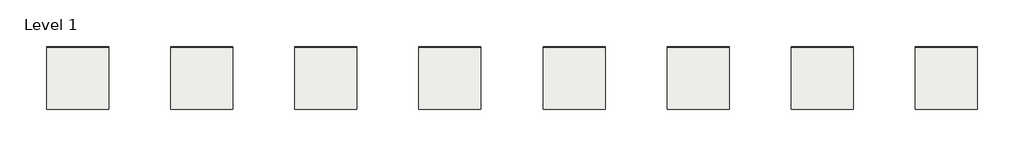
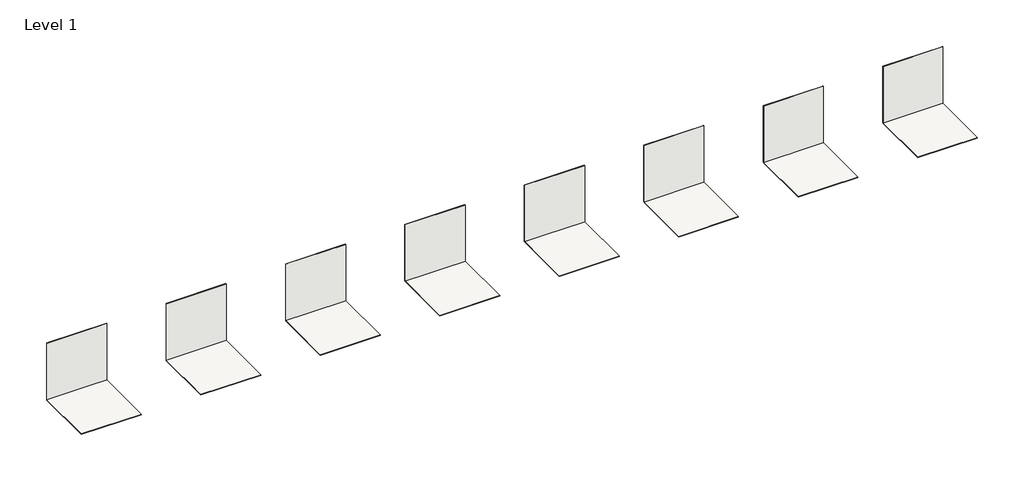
# One storey: 16 coverings.
"""IFC4 building model written with IfcOpenShell, lengths in millimetres."""

from ifc_helpers import new_model, si_unit, frame, origin, origin_with_axes, place, context, project, spatial, polyline, outline, extrude, element, save

model = new_model("IFC4")

# Units and contexts
model_context = context("Model", 3, world=origin())
ifc_project = project(units=[si_unit("LENGTHUNIT", "METRE", prefix="MILLI")], contexts=[model_context])

# Site, building, storey
site = spatial("IfcSite", under=ifc_project)
building = spatial("IfcBuilding", under=site)
storey = spatial("IfcBuildingStorey", under=building, Name="Level 1", Elevation=0.0)

# Coverings
placement = place(None, origin())
element("IfcCovering", 1, ObjectType="REVIGRÉS-LOCUS-HEXAGONO-16,5X19-SILK-ALLOY", at=placement, inside=storey, context=model_context, shape_type="SweptSolid", body=[
    extrude(outline(polyline([(2948.642714, 3103.8257974), (1948.642714, 3103.8257974), (1948.642714, 3112.3257974), (2948.642714, 3112.3257974), (2948.642714, 3103.8257974)])), origin_with_axes(), (0.0, 0.0, 1.0), 1000.0),
])
element("IfcCovering", 2, ObjectType="REVIGRÉS-LOCUS-HEXAGONO-16,5X19-SILK-ALLOY", at=placement, inside=storey, context=model_context, shape_type="SweptSolid", body=[
    extrude(outline(polyline([(2948.642714, 3103.8257974), (2948.642714, 2103.1757974), (1948.642714, 2103.1757974), (1948.642714, 3103.8257974), (2948.642714, 3103.8257974)])), frame((0.0, 0.0, -8.5), z_axis=(0.0, 0.0, 1.0), x_axis=(1.0, 0.0, 0.0)), (0.0, 0.0, 1.0), 8.5),
])
element("IfcCovering", 3, ObjectType="REVIGRÉS-LOCUS-HEXAGONO-16,5X19-SILK-BONE", at=placement, inside=storey, context=model_context, shape_type="SweptSolid", body=[
    extrude(outline(polyline([(6948.642714, 3103.8257974), (5948.642714, 3103.8257974), (5948.642714, 3112.3257974), (6948.642714, 3112.3257974), (6948.642714, 3103.8257974)])), origin_with_axes(), (0.0, 0.0, 1.0), 1000.0),
])
element("IfcCovering", 4, ObjectType="REVIGRÉS-LOCUS-HEXAGONO-16,5X19-SILK-BONE", at=placement, inside=storey, context=model_context, shape_type="SweptSolid", body=[
    extrude(outline(polyline([(6948.642714, 3103.8257974), (6948.642714, 2103.1757974), (5948.642714, 2103.1757974), (5948.642714, 3103.8257974), (6948.642714, 3103.8257974)])), frame((0.0, 0.0, -8.5), z_axis=(0.0, 0.0, 1.0), x_axis=(1.0, 0.0, 0.0)), (0.0, 0.0, 1.0), 8.5),
])
element("IfcCovering", 5, ObjectType="REVIGRÉS-LOCUS-HEXAGONO-16,5X19-SILK-GRIS", at=placement, inside=storey, context=model_context, shape_type="SweptSolid", body=[
    extrude(outline(polyline([(10948.642714, 3103.8257974), (9948.642714, 3103.8257974), (9948.642714, 3112.3257974), (10948.642714, 3112.3257974), (10948.642714, 3103.8257974)])), origin_with_axes(), (0.0, 0.0, 1.0), 1000.0),
])
element("IfcCovering", 6, ObjectType="REVIGRÉS-LOCUS-HEXAGONO-16,5X19-SILK-GRIS", at=placement, inside=storey, context=model_context, shape_type="SweptSolid", body=[
    extrude(outline(polyline([(10948.642714, 3103.8257974), (10948.642714, 2103.1757974), (9948.642714, 2103.1757974), (9948.642714, 3103.8257974), (10948.642714, 3103.8257974)])), frame((0.0, 0.0, -8.5), z_axis=(0.0, 0.0, 1.0), x_axis=(1.0, 0.0, 0.0)), (0.0, 0.0, 1.0), 8.5),
])
element("IfcCovering", 7, ObjectType="REVIGRÉS-LOCUS-HEXAGONO-16,5X19-SILK-SMOG", at=placement, inside=storey, context=model_context, shape_type="SweptSolid", body=[
    extrude(outline(polyline([(14948.642714, 3103.8257974), (13948.642714, 3103.8257974), (13948.642714, 3112.3257974), (14948.642714, 3112.3257974), (14948.642714, 3103.8257974)])), origin_with_axes(), (0.0, 0.0, 1.0), 1000.0),
])
element("IfcCovering", 8, ObjectType="REVIGRÉS-LOCUS-HEXAGONO-16,5X19-SILK-SMOG", at=placement, inside=storey, context=model_context, shape_type="SweptSolid", body=[
    extrude(outline(polyline([(14948.642714, 3103.8257974), (14948.642714, 2103.1757974), (13948.642714, 2103.1757974), (13948.642714, 3103.8257974), (14948.642714, 3103.8257974)])), frame((0.0, 0.0, -8.5), z_axis=(0.0, 0.0, 1.0), x_axis=(1.0, 0.0, 0.0)), (0.0, 0.0, 1.0), 8.5),
])
element("IfcCovering", 9, ObjectType="REVIGRÉS-LOCUS-HEXAGONO-16,5X19-SOFT GRIP-ALLOY", at=placement, inside=storey, context=model_context, shape_type="SweptSolid", body=[
    extrude(outline(polyline([(4948.642714, 3103.8257974), (3948.642714, 3103.8257974), (3948.642714, 3112.3257974), (4948.642714, 3112.3257974), (4948.642714, 3103.8257974)])), origin_with_axes(), (0.0, 0.0, 1.0), 1000.0),
])
element("IfcCovering", 10, ObjectType="REVIGRÉS-LOCUS-HEXAGONO-16,5X19-SOFT GRIP-ALLOY", at=placement, inside=storey, context=model_context, shape_type="SweptSolid", body=[
    extrude(outline(polyline([(4948.642714, 3103.8257974), (4948.642714, 2103.1757974), (3948.642714, 2103.1757974), (3948.642714, 3103.8257974), (4948.642714, 3103.8257974)])), frame((0.0, 0.0, -8.5), z_axis=(0.0, 0.0, 1.0), x_axis=(1.0, 0.0, 0.0)), (0.0, 0.0, 1.0), 8.5),
])
element("IfcCovering", 11, ObjectType="REVIGRÉS-LOCUS-HEXAGONO-16,5X19-SOFT GRIP-BONE", at=placement, inside=storey, context=model_context, shape_type="SweptSolid", body=[
    extrude(outline(polyline([(8948.642714, 3103.8257974), (7948.642714, 3103.8257974), (7948.642714, 3112.3257974), (8948.642714, 3112.3257974), (8948.642714, 3103.8257974)])), origin_with_axes(), (0.0, 0.0, 1.0), 1000.0),
])
element("IfcCovering", 12, ObjectType="REVIGRÉS-LOCUS-HEXAGONO-16,5X19-SOFT GRIP-BONE", at=placement, inside=storey, context=model_context, shape_type="SweptSolid", body=[
    extrude(outline(polyline([(8948.642714, 3103.8257974), (8948.642714, 2103.1757974), (7948.642714, 2103.1757974), (7948.642714, 3103.8257974), (8948.642714, 3103.8257974)])), frame((0.0, 0.0, -8.5), z_axis=(0.0, 0.0, 1.0), x_axis=(1.0, 0.0, 0.0)), (0.0, 0.0, 1.0), 8.5),
])
element("IfcCovering", 13, ObjectType="REVIGRÉS-LOCUS-HEXAGONO-16,5X19-SOFT GRIP-GRIS", at=placement, inside=storey, context=model_context, shape_type="SweptSolid", body=[
    extrude(outline(polyline([(12948.642714, 3103.8257974), (11948.642714, 3103.8257974), (11948.642714, 3112.3257974), (12948.642714, 3112.3257974), (12948.642714, 3103.8257974)])), origin_with_axes(), (0.0, 0.0, 1.0), 1000.0),
])
element("IfcCovering", 14, ObjectType="REVIGRÉS-LOCUS-HEXAGONO-16,5X19-SOFT GRIP-GRIS", at=placement, inside=storey, context=model_context, shape_type="SweptSolid", body=[
    extrude(outline(polyline([(12948.642714, 3103.8257974), (12948.642714, 2103.1757974), (11948.642714, 2103.1757974), (11948.642714, 3103.8257974), (12948.642714, 3103.8257974)])), frame((0.0, 0.0, -8.5), z_axis=(0.0, 0.0, 1.0), x_axis=(1.0, 0.0, 0.0)), (0.0, 0.0, 1.0), 8.5),
])
element("IfcCovering", 15, ObjectType="REVIGRÉS-LOCUS-HEXAGONO-16,5X19-SOFT GRIP-SMOG", at=placement, inside=storey, context=model_context, shape_type="SweptSolid", body=[
    extrude(outline(polyline([(16948.642714, 3103.8257974), (15948.642714, 3103.8257974), (15948.642714, 3112.3257974), (16948.642714, 3112.3257974), (16948.642714, 3103.8257974)])), origin_with_axes(), (0.0, 0.0, 1.0), 1000.0),
])
element("IfcCovering", 16, ObjectType="REVIGRÉS-LOCUS-HEXAGONO-16,5X19-SOFT GRIP-SMOG", at=placement, inside=storey, context=model_context, shape_type="SweptSolid", body=[
    extrude(outline(polyline([(16948.642714, 3103.8257974), (16948.642714, 2103.1757974), (15948.642714, 2103.1757974), (15948.642714, 3103.8257974), (16948.642714, 3103.8257974)])), frame((0.0, 0.0, -8.5), z_axis=(0.0, 0.0, 1.0), x_axis=(1.0, 0.0, 0.0)), (0.0, 0.0, 1.0), 8.5),
])

save(model, "model.ifc")
